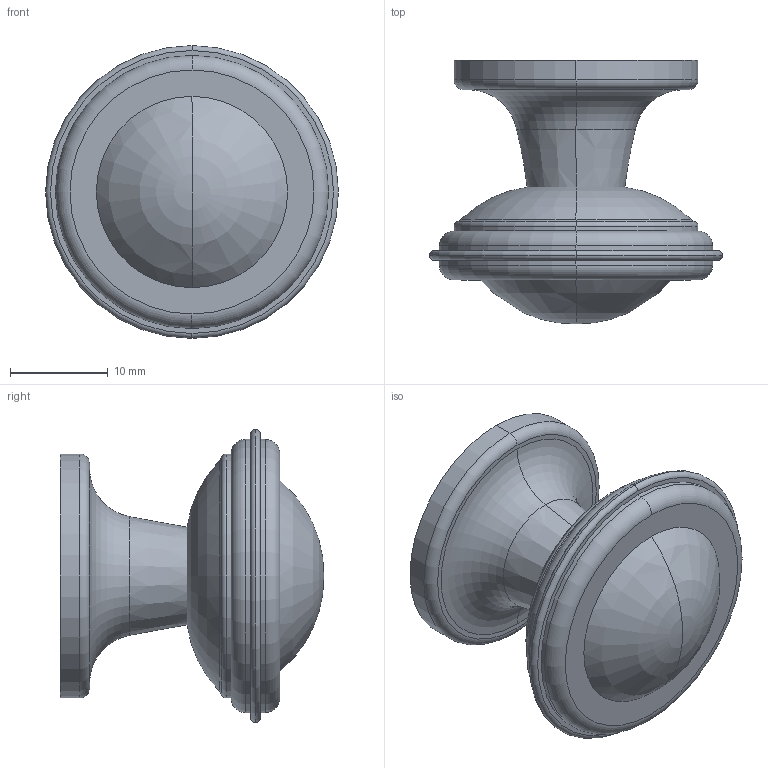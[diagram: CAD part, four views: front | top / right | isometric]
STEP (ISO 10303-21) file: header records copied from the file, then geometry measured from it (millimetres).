
FILE_DESCRIPTION( ( '' ), '1' );
FILE_NAME( 'C:/Documents and Settings/Nikhil/Desktop/Nik/Done/9113659.stp', '2013-10-23T11:38:50', ( '' ), ( '' ), ' ', ' ', ' ' );
FILE_SCHEMA( ( 'automotive_design' ) );
Length unit declared in the file: millimetre
Products named in the file (1): 1
Bounding box: 30 x 27 x 30 mm (x, y, z)
Volume: 7935.3 mm3; surface area: 3302.2 mm2
Topology: 1 solids, 1 shells, 38 faces, 76 edges, 43 vertices
Faces by surface type: torus 20, cylinder 10, plane 6, cone 2
Entity records: 1901 total; most frequent: DIRECTION 214, STYLED_ITEM 156, PRESENTATION_STYLE_ASSIGNMENT 156, CARTESIAN_POINT 156, COLOUR_RGB 156, ORIENTED_EDGE 148, AXIS2_PLACEMENT_3D 101, EDGE_CURVE 74
